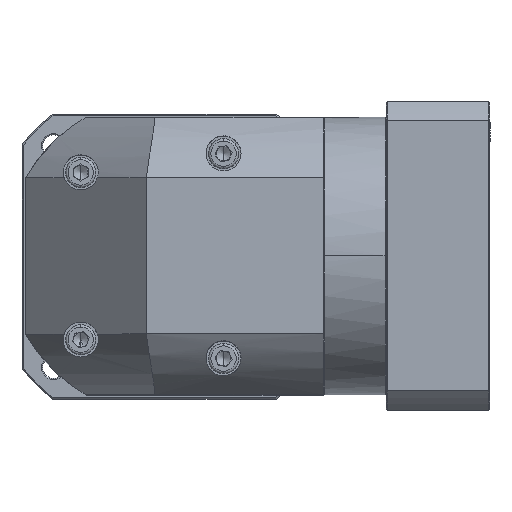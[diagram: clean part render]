
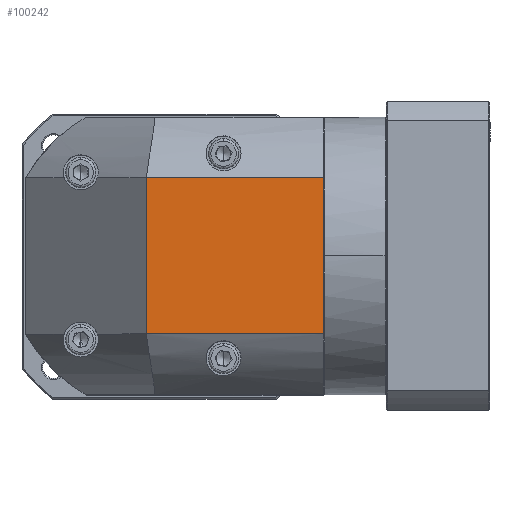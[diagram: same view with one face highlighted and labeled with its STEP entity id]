
A CAD part, top view. The second image highlights one B-rep face of the part: STEP entity #100242.
In plain terms, the highlighted planar face has unit normal (0, 0, 1).
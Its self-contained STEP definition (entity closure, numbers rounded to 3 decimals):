
#1557 = CARTESIAN_POINT ( 'NONE',  ( 34.293, 75.084, 51.178 ) ) ;
#2198 = CARTESIAN_POINT ( 'NONE',  ( 34.293, 10.284, 51.178 ) ) ;
#2465 = ORIENTED_EDGE ( 'NONE', *, *, #18996, .F. ) ;
#5599 = CARTESIAN_POINT ( 'NONE',  ( 41.793, 42.684, 51.178 ) ) ;
#9467 = EDGE_CURVE ( 'NONE', #130769, #23718, #79645, .T. ) ;
#14839 = DIRECTION ( 'NONE',  ( 0., 1., 0. ) ) ;
#16218 = VECTOR ( 'NONE', #14839, 1000. ) ;
#18996 = EDGE_CURVE ( 'NONE', #66683, #22218, #62496, .T. ) ;
#22218 = VERTEX_POINT ( 'NONE', #33460 ) ;
#23166 = CARTESIAN_POINT ( 'NONE',  ( 107.693, 100.184, 51.178 ) ) ;
#23718 = VERTEX_POINT ( 'NONE', #2198 ) ;
#30263 = CARTESIAN_POINT ( 'NONE',  ( -15.707, 75.084, 51.178 ) ) ;
#33460 = CARTESIAN_POINT ( 'NONE',  ( 107.693, 75.084, 51.178 ) ) ;
#39144 = CARTESIAN_POINT ( 'NONE',  ( 107.693, 10.284, 51.178 ) ) ;
#39194 = EDGE_CURVE ( 'NONE', #22218, #130769, #66083, .T. ) ;
#44928 = DIRECTION ( 'NONE',  ( 0., -1., 0. ) ) ;
#44945 = EDGE_CURVE ( 'NONE', #23718, #66683, #66461, .T. ) ;
#45838 = DIRECTION ( 'NONE',  ( 0., 0., -1. ) ) ;
#52105 = VECTOR ( 'NONE', #101853, 1000. ) ;
#55105 = FACE_OUTER_BOUND ( 'NONE', #116683, .T. ) ;
#62496 = LINE ( 'NONE', #30263, #114207 ) ;
#66083 = LINE ( 'NONE', #23166, #114542 ) ;
#66461 = LINE ( 'NONE', #96672, #16218 ) ;
#66683 = VERTEX_POINT ( 'NONE', #1557 ) ;
#70510 = DIRECTION ( 'NONE',  ( 1., 0., 0. ) ) ;
#73905 = ORIENTED_EDGE ( 'NONE', *, *, #39194, .F. ) ;
#76919 = DIRECTION ( 'NONE',  ( 0., -1., 0. ) ) ;
#79645 = LINE ( 'NONE', #91522, #52105 ) ;
#91522 = CARTESIAN_POINT ( 'NONE',  ( -15.707, 10.284, 51.178 ) ) ;
#96140 = ORIENTED_EDGE ( 'NONE', *, *, #44945, .F. ) ;
#96672 = CARTESIAN_POINT ( 'NONE',  ( 34.293, 100.184, 51.178 ) ) ;
#100242 = ADVANCED_FACE ( 'NONE', ( #55105 ), #119079, .F. ) ;
#101225 = ORIENTED_EDGE ( 'NONE', *, *, #9467, .F. ) ;
#101853 = DIRECTION ( 'NONE',  ( -1., 0., 0. ) ) ;
#104937 = AXIS2_PLACEMENT_3D ( 'NONE', #5599, #45838, #44928 ) ;
#114207 = VECTOR ( 'NONE', #70510, 1000. ) ;
#114542 = VECTOR ( 'NONE', #76919, 1000. ) ;
#116683 = EDGE_LOOP ( 'NONE', ( #2465, #96140, #101225, #73905 ) ) ;
#119079 = PLANE ( 'NONE',  #104937 ) ;
#130769 = VERTEX_POINT ( 'NONE', #39144 ) ;
